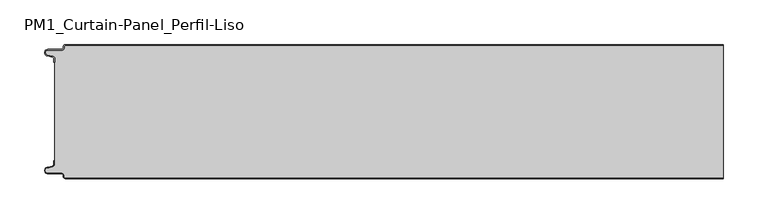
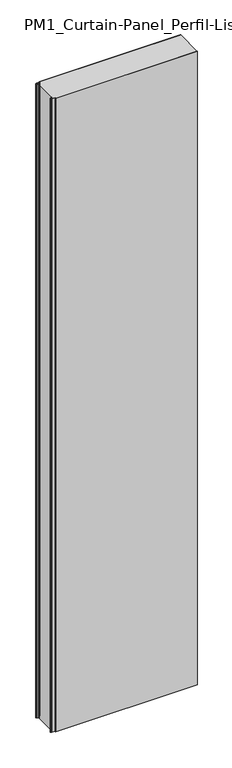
"""IFC4 building model written with IfcOpenShell, lengths in millimetres: plate geometry, PM1_Curtain-Panel_Perfil-Liso : ACH_PM1_Panel-Acústico-Sectorización_150M."""

from ifc_helpers import new_model, si_unit, point, frame_2d, origin, origin_with_axes, place, context, project, spatial, polyline, circle_curve, trimmed, segment, composite_curve, outline, extrude, source, transform, mapped, element, save


def pm1_curtain_panel_perfil_liso_9e77dd8b(model_context):
    return source(origin(), model_context, "Body", "SweptSolid", [
        extrude(outline(composite_curve([segment(trimmed(circle_curve(frame_2d((-362.4, -2.0)), 1.2), [point((-362.4, -0.8))], [point((-363.6, -2.0))], True, "CARTESIAN"), True, "CONTINUOUS"), segment(polyline([(-363.6, -2.0), (-363.6, -3.4)]), True, "CONTINUOUS"), segment(trimmed(circle_curve(frame_2d((-366.4, -3.4)), 2.8), [point((-363.6, -3.4))], [point((-366.4, -6.2))], False, "CARTESIAN"), True, "CONTINUOUS"), segment(polyline([(-366.4, -6.2), (-381.9, -6.2)]), True, "CONTINUOUS"), segment(trimmed(circle_curve(frame_2d((-381.9, -9.0)), 2.8), [point((-381.9, -6.2))], [point((-382.529863, -11.7282362))], True, "CARTESIAN"), True, "CONTINUOUS"), segment(polyline([(-382.529863, -11.7282362), (-376.370137, -13.150321)]), True, "CONTINUOUS"), segment(trimmed(circle_curve(frame_2d((-377.0, -15.878557)), 2.8), [point((-376.370137, -13.150321))], [point((-374.2, -15.878557))], False, "CARTESIAN"), True, "CONTINUOUS"), segment(polyline([(-374.2, -15.878557), (-374.2, -20.0), (-375.0, -20.0), (-375.0, -15.878557)]), True, "CONTINUOUS"), segment(trimmed(circle_curve(frame_2d((-377.0, -15.878557)), 2.0), [point((-375.0, -15.878557))], [point((-376.5500978, -13.9298169))], True, "CARTESIAN"), True, "CONTINUOUS"), segment(polyline([(-376.5500978, -13.9298169), (-382.7098239, -12.507732)]), True, "CONTINUOUS"), segment(trimmed(circle_curve(frame_2d((-381.9, -9.0)), 3.6), [point((-382.7098239, -12.507732))], [point((-381.9, -5.4))], False, "CARTESIAN"), True, "CONTINUOUS"), segment(polyline([(-381.9, -5.4), (-366.4, -5.4)]), True, "CONTINUOUS"), segment(trimmed(circle_curve(frame_2d((-366.4, -3.4)), 2.0), [point((-366.4, -5.4))], [point((-364.4, -3.4))], True, "CARTESIAN"), True, "CONTINUOUS"), segment(polyline([(-364.4, -3.4), (-364.4, -2.0)]), True, "CONTINUOUS"), segment(trimmed(circle_curve(frame_2d((-362.4, -2.0)), 2.0), [point((-364.4, -2.0))], [point((-362.4, 0.0))], False, "CARTESIAN"), True, "CONTINUOUS"), segment(polyline([(-362.4, 0.0), (375.0, 0.0), (375.0, -0.8), (-362.4, -0.8)]), True, "CONTINUOUS")], self_intersect=False)), origin_with_axes(), (0.0, 0.0, 1.0), 3500.0),
        extrude(outline(composite_curve([segment(polyline([(-374.2, -134.1214426), (-374.2, -15.8785573)]), True, "CONTINUOUS"), segment(trimmed(circle_curve(frame_2d((-377.0, -15.8785573)), 2.8), [point((-374.2, -15.8785573))], [point((-376.370137, -13.1503212))], True, "CARTESIAN"), True, "CONTINUOUS"), segment(polyline([(-376.370137, -13.1503212), (-382.5298631, -11.7282362)]), True, "CONTINUOUS"), segment(trimmed(circle_curve(frame_2d((-381.9, -9.0)), 2.8), [point((-382.5298631, -11.7282362))], [point((-381.9, -6.2))], False, "CARTESIAN"), True, "CONTINUOUS"), segment(polyline([(-381.9, -6.2), (-366.4000001, -6.2)]), True, "CONTINUOUS"), segment(trimmed(circle_curve(frame_2d((-366.4000001, -3.4)), 2.8), [point((-366.4000001, -6.2))], [point((-363.6000001, -3.4))], True, "CARTESIAN"), True, "CONTINUOUS"), segment(polyline([(-363.6000001, -3.4), (-363.6000001, -2.0)]), True, "CONTINUOUS"), segment(trimmed(circle_curve(frame_2d((-362.4000001, -2.0)), 1.2), [point((-363.6000001, -2.0))], [point((-362.4000001, -0.8))], False, "CARTESIAN"), True, "CONTINUOUS"), segment(polyline([(-362.4000001, -0.8), (375.0, -0.8), (375.0, -149.2), (-362.4000001, -149.2)]), True, "CONTINUOUS"), segment(trimmed(circle_curve(frame_2d((-362.4000001, -148.0)), 1.2), [point((-362.4000001, -149.2))], [point((-363.6000001, -148.0))], False, "CARTESIAN"), True, "CONTINUOUS"), segment(polyline([(-363.6000001, -148.0), (-363.6000001, -146.6)]), True, "CONTINUOUS"), segment(trimmed(circle_curve(frame_2d((-366.4000001, -146.6)), 2.8), [point((-363.6000001, -146.6))], [point((-366.4000001, -143.8))], True, "CARTESIAN"), True, "CONTINUOUS"), segment(polyline([(-366.4000001, -143.8), (-381.9, -143.8)]), True, "CONTINUOUS"), segment(trimmed(circle_curve(frame_2d((-381.9, -141.0)), 2.8), [point((-381.9, -143.8))], [point((-382.5298631, -138.2717638))], False, "CARTESIAN"), True, "CONTINUOUS"), segment(polyline([(-382.5298631, -138.2717638), (-376.370137, -136.8496788)]), True, "CONTINUOUS"), segment(trimmed(circle_curve(frame_2d((-377.0, -134.1214426)), 2.8), [point((-376.370137, -136.8496788))], [point((-374.2, -134.1214426))], True, "CARTESIAN"), True, "CONTINUOUS")], self_intersect=False)), origin_with_axes(), (0.0, 0.0, 1.0), 3500.0),
        extrude(outline(composite_curve([segment(trimmed(circle_curve(frame_2d((-362.4, -148.0)), 2.0), [point((-362.4, -150.0))], [point((-364.4, -148.0))], False, "CARTESIAN"), True, "CONTINUOUS"), segment(polyline([(-364.4, -148.0), (-364.4, -146.6)]), True, "CONTINUOUS"), segment(trimmed(circle_curve(frame_2d((-366.4, -146.6)), 2.0), [point((-364.4, -146.6))], [point((-366.4, -144.6))], True, "CARTESIAN"), True, "CONTINUOUS"), segment(polyline([(-366.4, -144.6), (-381.9, -144.6)]), True, "CONTINUOUS"), segment(trimmed(circle_curve(frame_2d((-381.9, -141.0)), 3.6), [point((-381.9, -144.6))], [point((-382.7098239, -137.4922678))], False, "CARTESIAN"), True, "CONTINUOUS"), segment(polyline([(-382.7098239, -137.4922678), (-376.5500979, -136.070183)]), True, "CONTINUOUS"), segment(trimmed(circle_curve(frame_2d((-377.0, -134.121443)), 2.0), [point((-376.5500979, -136.070183))], [point((-375.0, -134.121443))], True, "CARTESIAN"), True, "CONTINUOUS"), segment(polyline([(-375.0, -134.121443), (-375.0, -130.0), (-374.2, -130.0), (-374.2, -134.121443)]), True, "CONTINUOUS"), segment(trimmed(circle_curve(frame_2d((-377.0, -134.121443)), 2.8), [point((-374.2, -134.121443))], [point((-376.370137, -136.8496792))], False, "CARTESIAN"), True, "CONTINUOUS"), segment(polyline([(-376.370137, -136.8496792), (-382.529863, -138.271764)]), True, "CONTINUOUS"), segment(trimmed(circle_curve(frame_2d((-381.9, -141.0)), 2.8), [point((-382.529863, -138.271764))], [point((-381.9, -143.8))], True, "CARTESIAN"), True, "CONTINUOUS"), segment(polyline([(-381.9, -143.8), (-366.4, -143.8)]), True, "CONTINUOUS"), segment(trimmed(circle_curve(frame_2d((-366.4, -146.6)), 2.8), [point((-366.4, -143.8))], [point((-363.6, -146.6))], False, "CARTESIAN"), True, "CONTINUOUS"), segment(polyline([(-363.6, -146.6), (-363.6, -148.0)]), True, "CONTINUOUS"), segment(trimmed(circle_curve(frame_2d((-362.4, -148.0)), 1.2), [point((-363.6, -148.0))], [point((-362.4, -149.2))], True, "CARTESIAN"), True, "CONTINUOUS"), segment(polyline([(-362.4, -149.2), (375.0, -149.2), (375.0, -150.0), (-362.4, -150.0)]), True, "CONTINUOUS")], self_intersect=False)), origin_with_axes(), (0.0, 0.0, 1.0), 3500.0),
    ])


if __name__ == "__main__":
    model = new_model("IFC4")
    model_context = context("Model", 3, world=origin())
    ifc_project = project(units=[si_unit("LENGTHUNIT", "METRE", prefix="MILLI")], contexts=[model_context])
    site = spatial("IfcSite", under=ifc_project)
    building = spatial("IfcBuilding", under=site)
    placement = place(None, origin())
    pm1_curtain_panel_perfil_liso_shape = pm1_curtain_panel_perfil_liso_9e77dd8b(model_context)
    element("IfcPlate", 1, ObjectType="PM1_Curtain-Panel_Perfil-Liso : ACH_PM1_Panel-Acústico-Sectorización_150M", at=placement, inside=building, context=model_context, shape_type="MappedRepresentation", body=[
        mapped(pm1_curtain_panel_perfil_liso_shape, transform((0.0, 0.0, 0.0), x_axis=(1.0, 0.0, 0.0), y_axis=(0.0, 1.0, 0.0), z_axis=(0.0, 0.0, 1.0))),
    ])
    save(model, "model.ifc")
